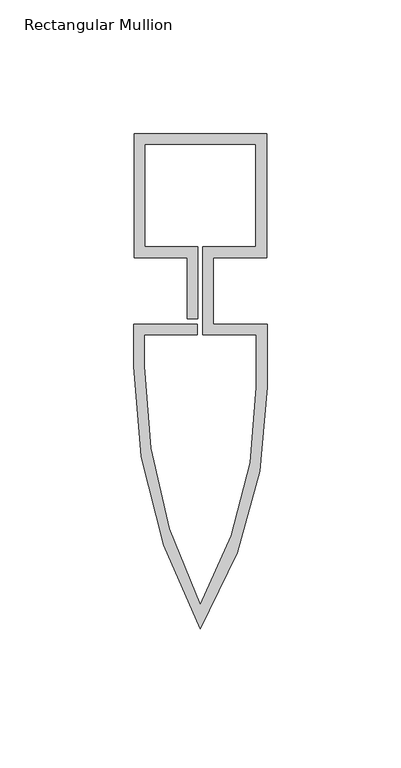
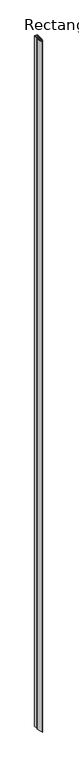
"""IFC4 building model written with IfcOpenShell, lengths in millimetres: member geometry, Rectangular Mullion : Reynaers_CW-50_Mullion-Transom_Horizontal_46.4mm_Facecap-05."""

from ifc_helpers import new_model, si_unit, point, frame, frame_2d, origin, place, context, project, spatial, polyline, circle_curve, trimmed, segment, composite_curve, outline, extrude, source, transform, mapped, element, save


def rectangular_mullion_6da18841(model_context):
    return source(origin(), model_context, "Body", "SweptSolid", [
        extrude(outline(composite_curve([segment(polyline([(-24.8004059, 58.9), (24.8004059, 58.9), (24.8004059, 12.5), (4.9004059, 12.5), (4.9004059, -12.5), (24.994845, -12.5), (24.994845, -36.0195976)]), True, "CONTINUOUS"), segment(trimmed(circle_curve(frame_2d((-151.2704106, -36.0195976)), 176.2652556), [point((24.994845, -36.0195976))], [point((0.0, -126.5))], False, "CARTESIAN"), True, "CONTINUOUS"), segment(trimmed(circle_curve(frame_2d((181.1469577, -28.111878)), 206.1418028), [point((0.0, -126.5))], [point((-24.994845, -28.111878))], False, "CARTESIAN"), True, "CONTINUOUS"), segment(polyline([(-24.994845, -28.111878), (-24.994845, -12.5), (-1.0995941, -12.5), (-1.0995941, -16.5), (-20.994845, -16.5), (-20.994845, -28.2355063)]), True, "CONTINUOUS"), segment(trimmed(circle_curve(frame_2d((179.2670132, -28.2355063)), 200.2618582), [point((-20.994845, -28.2355063))], [point((0.0, -117.5))], True, "CARTESIAN"), True, "CONTINUOUS"), segment(trimmed(circle_curve(frame_2d((-147.4777527, -36.0547506)), 168.4725977), [point((0.0, -117.5))], [point((20.994845, -36.0547506))], True, "CARTESIAN"), True, "CONTINUOUS"), segment(polyline([(20.994845, -36.0547506), (20.994845, -16.5), (0.9004059, -16.5), (0.9004059, 16.5), (20.8004059, 16.5), (20.8004059, 54.9), (-20.8004059, 54.9), (-20.8004059, 16.5), (-0.9004059, 16.5), (-0.9004059, -10.5), (-4.9004059, -10.5), (-4.9004059, 12.5), (-24.8004059, 12.5), (-24.8004059, 58.9)]), True, "CONTINUOUS")], self_intersect=False)), frame((0.0, 0.0, -12000.0), z_axis=(0.0, 0.0, 1.0), x_axis=(1.0, 0.0, 0.0)), (0.0, 0.0, 1.0), 12000.0),
    ])


if __name__ == "__main__":
    model = new_model("IFC4")
    model_context = context("Model", 3, world=origin())
    ifc_project = project(units=[si_unit("LENGTHUNIT", "METRE", prefix="MILLI")], contexts=[model_context])
    site = spatial("IfcSite", under=ifc_project)
    building = spatial("IfcBuilding", under=site)
    placement = place(None, origin())
    rectangular_mullion_shape = rectangular_mullion_6da18841(model_context)
    element("IfcMember", 1, ObjectType="Rectangular Mullion : Reynaers_CW-50_Mullion-Transom_Horizontal_46.4mm_Facecap-05", at=placement, inside=building, context=model_context, shape_type="MappedRepresentation", body=[
        mapped(rectangular_mullion_shape, transform((0.0, 0.0, 0.0), x_axis=(1.0, 0.0, 0.0), y_axis=(0.0, 1.0, 0.0), z_axis=(0.0, 0.0, 1.0))),
    ])
    save(model, "model.ifc")
